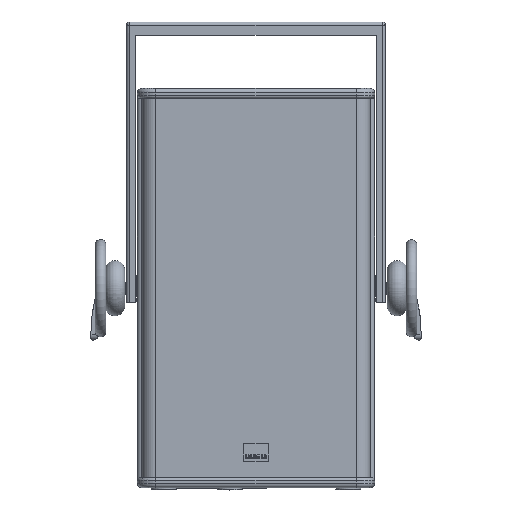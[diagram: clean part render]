
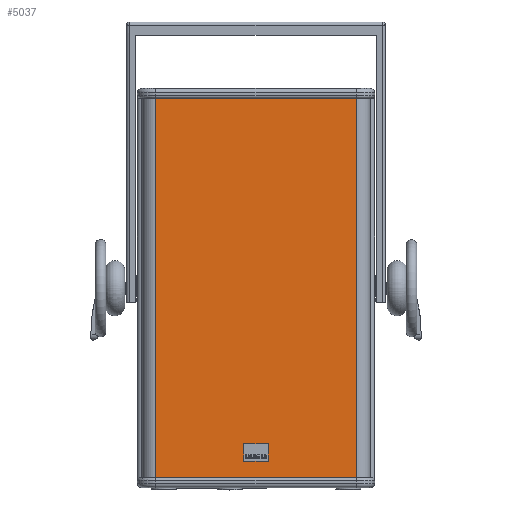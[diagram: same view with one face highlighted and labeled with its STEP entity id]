
A CAD part, top view. The second image highlights one B-rep face of the part: STEP entity #5037.
In plain terms, the highlighted planar face has unit normal (0, 0, 1) as drawn and (0, -1, 0) by its records, which use the part's own axes.
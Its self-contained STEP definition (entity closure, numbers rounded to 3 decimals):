
#5001 = VERTEX_POINT ( 'NONE', #5891 ) ;
#5008 = EDGE_CURVE ( 'NONE', #5013, #5001, #5924, .T. ) ;
#5012 = ORIENTED_EDGE ( 'NONE', *, *, #5008, .T. ) ;
#5013 = VERTEX_POINT ( 'NONE', #5915 ) ;
#5029 = EDGE_LOOP ( 'NONE', ( #5012, #24532, #24533, #24521 ) ) ;
#5037 = ADVANCED_FACE ( 'NONE', ( #5985 ), #5984, .T. ) ;
#5891 = CARTESIAN_POINT ( 'NONE',  ( 332., 6.43, 0. ) ) ;
#5915 = CARTESIAN_POINT ( 'NONE',  ( 28., 6.5, 0. ) ) ;
#5921 = DIRECTION ( 'NONE',  ( 1., 0., 0. ) ) ;
#5922 = VECTOR ( 'NONE', #5921, 1000. ) ;
#5923 = CARTESIAN_POINT ( 'NONE',  ( 28., 6.5, 0. ) ) ;
#5924 = LINE ( 'NONE', #5923, #5922 ) ;
#5978 = DIRECTION ( 'NONE',  ( 1., 0., 0. ) ) ;
#5979 = DIRECTION ( 'NONE',  ( 0., -1., 0. ) ) ;
#5981 = CARTESIAN_POINT ( 'NONE',  ( 332., 6.43, 0. ) ) ;
#5983 = AXIS2_PLACEMENT_3D ( 'NONE', #5981, #5979, #5978 ) ;
#5984 = PLANE ( 'NONE',  #5983 ) ;
#5985 = FACE_OUTER_BOUND ( 'NONE', #5029, .T. ) ;
#12702 = DIRECTION ( 'NONE',  ( 1., 0., 0. ) ) ;
#12703 = VECTOR ( 'NONE', #12702, 1000. ) ;
#12704 = CARTESIAN_POINT ( 'NONE',  ( 28., 6.5, 576. ) ) ;
#12705 = LINE ( 'NONE', #12704, #12703 ) ;
#12710 = CARTESIAN_POINT ( 'NONE',  ( 28., 6.5, 576. ) ) ;
#12711 = CARTESIAN_POINT ( 'NONE',  ( 332., 6.43, 576. ) ) ;
#12717 = DIRECTION ( 'NONE',  ( 0., 0., 1. ) ) ;
#12718 = VECTOR ( 'NONE', #12717, 1000. ) ;
#12719 = CARTESIAN_POINT ( 'NONE',  ( 28., 6.5, 0. ) ) ;
#12720 = LINE ( 'NONE', #12719, #12718 ) ;
#12762 = DIRECTION ( 'NONE',  ( 0., 0., -1. ) ) ;
#12763 = VECTOR ( 'NONE', #12762, 1000. ) ;
#12764 = CARTESIAN_POINT ( 'NONE',  ( 332., 6.43, 0. ) ) ;
#12765 = LINE ( 'NONE', #12764, #12763 ) ;
#24521 = ORIENTED_EDGE ( 'NONE', *, *, #24522, .F. ) ;
#24522 = EDGE_CURVE ( 'NONE', #5013, #24530, #12720, .T. ) ;
#24528 = VERTEX_POINT ( 'NONE', #12711 ) ;
#24530 = VERTEX_POINT ( 'NONE', #12710 ) ;
#24532 = ORIENTED_EDGE ( 'NONE', *, *, #24547, .F. ) ;
#24533 = ORIENTED_EDGE ( 'NONE', *, *, #24535, .F. ) ;
#24535 = EDGE_CURVE ( 'NONE', #24530, #24528, #12705, .T. ) ;
#24547 = EDGE_CURVE ( 'NONE', #24528, #5001, #12765, .T. ) ;
